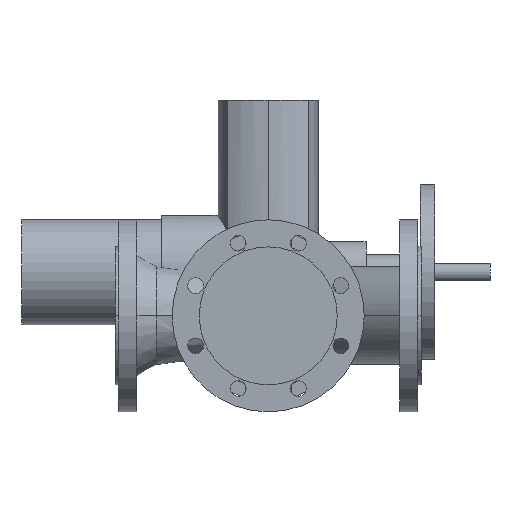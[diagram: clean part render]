
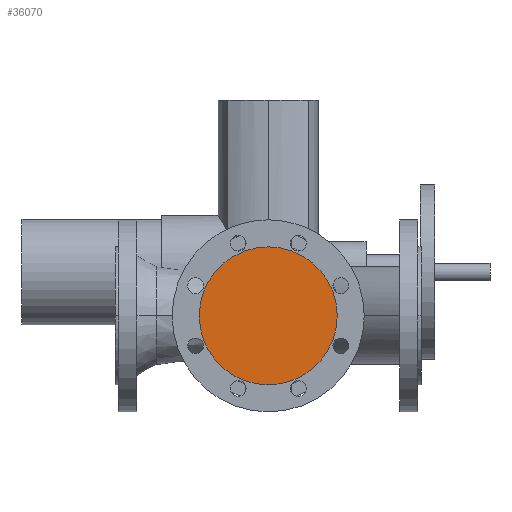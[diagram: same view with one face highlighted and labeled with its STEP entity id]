
A CAD part, front view. The second image highlights one B-rep face of the part: STEP entity #36070.
In plain terms, the highlighted planar face has unit normal (0, -1, 0).
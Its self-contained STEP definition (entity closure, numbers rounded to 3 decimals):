
#3250=CARTESIAN_POINT('',(254.,-150.,0.));
#3260=VERTEX_POINT('',#3250);
#3290=CARTESIAN_POINT('',(175.,-150.,0.));
#3300=DIRECTION('',(0.,1.,0.));
#3310=DIRECTION('',(1.,0.,0.));
#3320=AXIS2_PLACEMENT_3D('',#3290,#3300,#3310);
#3330=CIRCLE('',#3320,79.);
#3340=CARTESIAN_POINT('',(96.,-150.,0.));
#3350=VERTEX_POINT('',#3340);
#3360=EDGE_CURVE('',#3350,#3260,#3330,.T.);
#35970=CARTESIAN_POINT('',(214.5,-150.,0.));
#35980=DIRECTION('',(0.,-1.,0.));
#35990=DIRECTION('',(-1.,0.,0.));
#36000=AXIS2_PLACEMENT_3D('',#35970,#35980,#35990);
#36010=PLANE('',#36000);
#36020=EDGE_CURVE('',#3260,#3350,#3330,.T.);
#36030=ORIENTED_EDGE('',*,*,#36020,.F.);
#36040=ORIENTED_EDGE('',*,*,#3360,.F.);
#36050=EDGE_LOOP('',(#36040,#36030));
#36060=FACE_OUTER_BOUND('',#36050,.T.);
#36070=ADVANCED_FACE('',(#36060),#36010,.T.);
